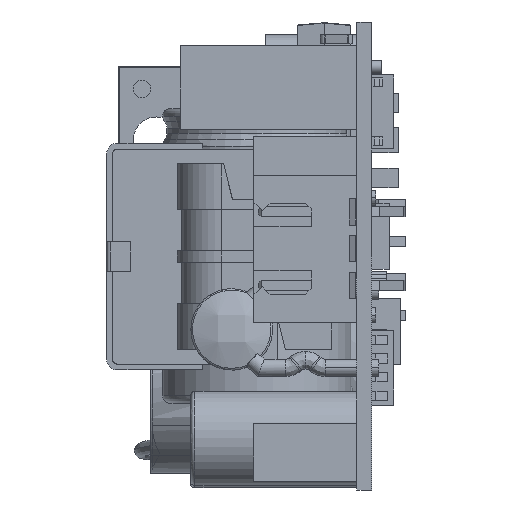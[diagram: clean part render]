
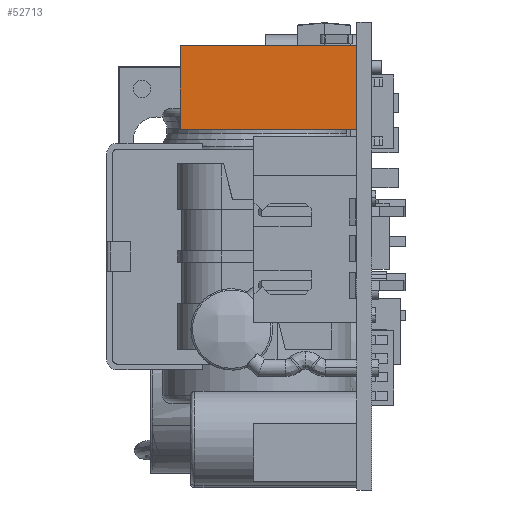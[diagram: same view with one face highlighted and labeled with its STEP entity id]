
A CAD part, left-side view. The second image highlights one B-rep face of the part: STEP entity #52713.
In plain terms, the highlighted planar face has unit normal (-1, 0, 0).
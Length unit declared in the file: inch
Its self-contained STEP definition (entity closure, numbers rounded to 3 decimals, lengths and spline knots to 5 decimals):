
#175 = ORIENTED_EDGE ( 'NONE', *, *, #25346, .T. ) ;
#1160 = DIRECTION ( 'NONE',  ( 0., 0., -1. ) ) ;
#5769 = PLANE ( 'NONE',  #12643 ) ;
#6214 = VECTOR ( 'NONE', #34587, 39.37008 ) ;
#8443 = CARTESIAN_POINT ( 'NONE',  ( 1.56382, 0.03937, -4.28232 ) ) ;
#9638 = CARTESIAN_POINT ( 'NONE',  ( 1.56382, 0.51181, -4.28232 ) ) ;
#12643 = AXIS2_PLACEMENT_3D ( 'NONE', #57709, #29660, #1160 ) ;
#14362 = CARTESIAN_POINT ( 'NONE',  ( 1.56382, 0.51181, -4.05791 ) ) ;
#17319 = ORIENTED_EDGE ( 'NONE', *, *, #32136, .T. ) ;
#18348 = EDGE_CURVE ( 'NONE', #52279, #30969, #20511, .T. ) ;
#18700 = CARTESIAN_POINT ( 'NONE',  ( 1.56382, 0.51181, -4.05791 ) ) ;
#20093 = VERTEX_POINT ( 'NONE', #8443 ) ;
#20511 = LINE ( 'NONE', #53236, #56509 ) ;
#23566 = LINE ( 'NONE', #18700, #47285 ) ;
#23825 = LINE ( 'NONE', #38317, #36373 ) ;
#25346 = EDGE_CURVE ( 'NONE', #20093, #51915, #23825, .T. ) ;
#25990 = FACE_OUTER_BOUND ( 'NONE', #36796, .T. ) ;
#28185 = DIRECTION ( 'NONE',  ( 0., 1., 0. ) ) ;
#29660 = DIRECTION ( 'NONE',  ( 1., 0., 0. ) ) ;
#29802 = CARTESIAN_POINT ( 'NONE',  ( 1.56382, 0.51181, -4.28232 ) ) ;
#30969 = VERTEX_POINT ( 'NONE', #14362 ) ;
#31574 = ORIENTED_EDGE ( 'NONE', *, *, #18348, .F. ) ;
#32136 = EDGE_CURVE ( 'NONE', #51915, #30969, #23566, .T. ) ;
#34587 = DIRECTION ( 'NONE',  ( 0., -1., 0. ) ) ;
#35169 = CARTESIAN_POINT ( 'NONE',  ( 1.56382, 0.03937, -4.05791 ) ) ;
#36373 = VECTOR ( 'NONE', #38380, 39.37008 ) ;
#36796 = EDGE_LOOP ( 'NONE', ( #17319, #31574, #46780, #175 ) ) ;
#38317 = CARTESIAN_POINT ( 'NONE',  ( 1.56382, 0.03937, -3.99492 ) ) ;
#38380 = DIRECTION ( 'NONE',  ( 0., 0., 1. ) ) ;
#44094 = LINE ( 'NONE', #29802, #6214 ) ;
#46780 = ORIENTED_EDGE ( 'NONE', *, *, #54717, .T. ) ;
#47285 = VECTOR ( 'NONE', #28185, 39.37008 ) ;
#51915 = VERTEX_POINT ( 'NONE', #35169 ) ;
#52279 = VERTEX_POINT ( 'NONE', #9638 ) ;
#52713 = ADVANCED_FACE ( 'NONE', ( #25990 ), #5769, .F. ) ;
#52749 = DIRECTION ( 'NONE',  ( 0., 0., 1. ) ) ;
#53236 = CARTESIAN_POINT ( 'NONE',  ( 1.56382, 0.51181, -4.28232 ) ) ;
#54717 = EDGE_CURVE ( 'NONE', #52279, #20093, #44094, .T. ) ;
#56509 = VECTOR ( 'NONE', #52749, 39.37008 ) ;
#57709 = CARTESIAN_POINT ( 'NONE',  ( 1.56382, 0.51181, -4.28232 ) ) ;
